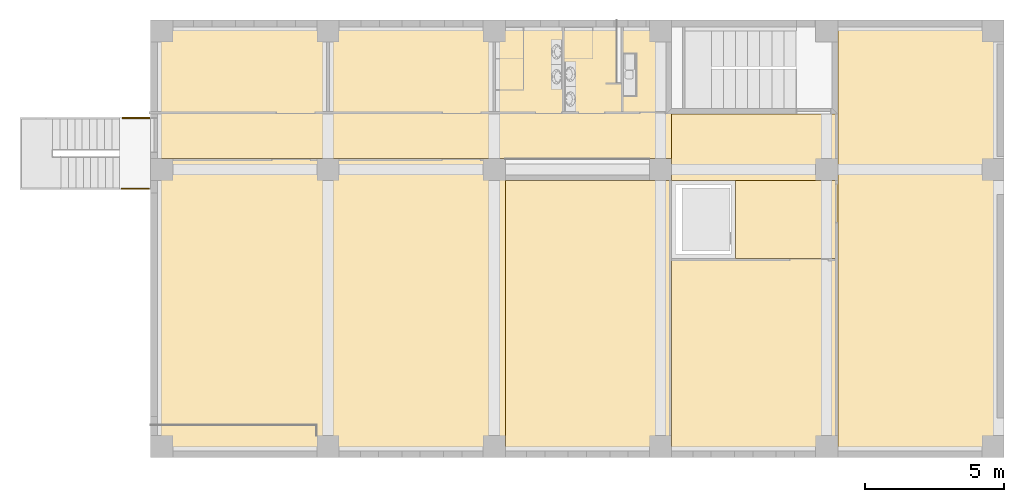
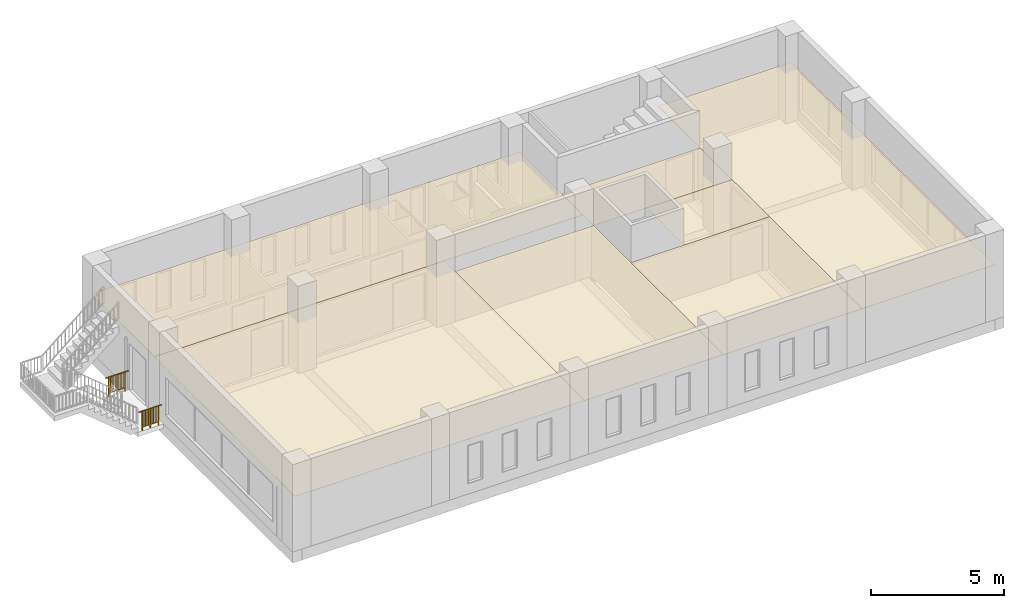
# One storey, part 7 of 14: 7 coverings, 2 railings.
"""IFC2X3 building model written with IfcOpenShell, lengths in millimetres."""

from ifc_helpers import new_model, entity, si_unit, converted_unit, direction, frame, origin_with_axes, place, context, project, spatial, polyline, outline, extrude, faceted_brep, source, transform, mapped, material, element, save


model = new_model("IFC2X3")

# Units and contexts
model_context = context("Model", 3, precision=1e-05, world=origin_with_axes(), true_north=direction((0.0, 1.0)))
ifc_project = project(units=[si_unit("LENGTHUNIT", "METRE", prefix="MILLI"), si_unit("AREAUNIT", "SQUARE_METRE"), si_unit("VOLUMEUNIT", "CUBIC_METRE"), converted_unit("PLANEANGLEUNIT", "DEGREE", entity("IfcPlaneAngleMeasure", 0.017453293), si_unit("PLANEANGLEUNIT", "RADIAN"), dimensions=[0, 0, 0, 0, 0, 0, 0]), si_unit("SOLIDANGLEUNIT", "STERADIAN"), si_unit("MASSUNIT", "GRAM"), si_unit("TIMEUNIT", "SECOND"), si_unit("THERMODYNAMICTEMPERATUREUNIT", "DEGREE_CELSIUS"), si_unit("LUMINOUSINTENSITYUNIT", "LUMEN")], contexts=[model_context])

# Site, building, storey
site_placement = place(None, origin_with_axes())
site = spatial("IfcSite", under=ifc_project, at=site_placement, Name="\x83T\x83C\x83g", CompositionType="ELEMENT")
building_placement = place(site_placement, origin_with_axes())
building = spatial("IfcBuilding", under=site, at=building_placement, Name="Daitec-Sample 201208", CompositionType="ELEMENT")
storey_placement = place(building_placement, frame((0.0, 0.0, 4000.0), z_axis=(0.0, 0.0, 1.0), x_axis=(1.0, 0.0, 0.0)))
storey = spatial("IfcBuildingStorey", under=building, at=storey_placement, Name="2F", CompositionType="ELEMENT", Elevation=4000.0)

# Railings
ifc_material_1 = material(Name="\x94w\x8ci")
shared_shape = source(origin_with_axes(), model_context, "Body", "Brep", [
    faceted_brep([(0.0, 25.0, 875.0), (0.0, -25.0, 875.0), (0.0, -25.0, 900.0), (0.0, 25.0, 900.0), (1000.0, 25.0, 875.0), (1000.0, -25.0, 875.0), (1000.0, -25.0, 900.0), (1000.0, 25.0, 900.0)], [[[0, 1, 2, 3]], [[0, 4, 5, 1]], [[1, 5, 6, 2]], [[3, 2, 6, 7]], [[4, 0, 3, 7]], [[5, 4, 7, 6]]]),
    faceted_brep([(132.5, -17.5, 0.0), (167.5, -17.5, 0.0), (167.5, -17.5, 875.0), (132.5, -17.5, 875.0), (132.5, 17.5, 0.0), (167.5, 17.5, 0.0), (167.5, 17.5, 875.0), (132.5, 17.5, 875.0)], [[[0, 1, 2, 3]], [[0, 4, 5, 1]], [[1, 5, 6, 2]], [[3, 2, 6, 7]], [[4, 0, 3, 7]], [[5, 4, 7, 6]]]),
    faceted_brep([(482.5, -17.5, 0.0), (517.5, -17.5, 0.0), (517.5, -17.5, 875.0), (482.5, -17.5, 875.0), (482.5, 17.5, 0.0), (517.5, 17.5, 0.0), (517.5, 17.5, 875.0), (482.5, 17.5, 875.0)], [[[0, 1, 2, 3]], [[0, 4, 5, 1]], [[1, 5, 6, 2]], [[3, 2, 6, 7]], [[4, 0, 3, 7]], [[5, 4, 7, 6]]]),
    faceted_brep([(832.5, -17.5, 0.0), (867.5, -17.5, 0.0), (867.5, -17.5, 875.0), (832.5, -17.5, 875.0), (832.5, 17.5, 0.0), (867.5, 17.5, 0.0), (867.5, 17.5, 875.0), (832.5, 17.5, 875.0)], [[[0, 1, 2, 3]], [[0, 4, 5, 1]], [[1, 5, 6, 2]], [[3, 2, 6, 7]], [[4, 0, 3, 7]], [[5, 4, 7, 6]]]),
    faceted_brep([(482.5, -10.0, 170.0), (482.5, 10.0, 170.0), (167.5, 10.0, 170.0), (167.5, -10.0, 170.0), (482.5, 10.0, 150.0), (482.5, -10.0, 150.0), (167.5, 10.0, 150.0), (167.5, -10.0, 150.0)], [[[0, 1, 2, 3]], [[4, 1, 0, 5]], [[1, 4, 6, 2]], [[7, 3, 2, 6]], [[5, 0, 3, 7]], [[4, 5, 7, 6]]]),
    faceted_brep([(832.5, -10.0, 170.0), (832.5, 10.0, 170.0), (517.5, 10.0, 170.0), (517.5, -10.0, 170.0), (832.5, 10.0, 150.0), (832.5, -10.0, 150.0), (517.5, 10.0, 150.0), (517.5, -10.0, 150.0)], [[[0, 1, 2, 3]], [[4, 1, 0, 5]], [[1, 4, 6, 2]], [[7, 3, 2, 6]], [[5, 0, 3, 7]], [[4, 5, 7, 6]]]),
    faceted_brep([(214.5, -10.0, 170.0), (234.5, -10.0, 170.0), (234.5, -10.0, 875.0), (214.5, -10.0, 875.0), (214.5, 10.0, 170.0), (234.5, 10.0, 170.0), (234.5, 10.0, 875.0), (214.5, 10.0, 875.0)], [[[0, 1, 2, 3]], [[0, 4, 5, 1]], [[1, 5, 6, 2]], [[3, 2, 6, 7]], [[4, 0, 3, 7]], [[5, 4, 7, 6]]]),
    faceted_brep([(281.5, -10.0, 170.0), (301.5, -10.0, 170.0), (301.5, -10.0, 875.0), (281.5, -10.0, 875.0), (281.5, 10.0, 170.0), (301.5, 10.0, 170.0), (301.5, 10.0, 875.0), (281.5, 10.0, 875.0)], [[[0, 1, 2, 3]], [[0, 4, 5, 1]], [[1, 5, 6, 2]], [[3, 2, 6, 7]], [[4, 0, 3, 7]], [[5, 4, 7, 6]]]),
    faceted_brep([(348.5, -10.0, 170.0), (368.5, -10.0, 170.0), (368.5, -10.0, 875.0), (348.5, -10.0, 875.0), (348.5, 10.0, 170.0), (368.5, 10.0, 170.0), (368.5, 10.0, 875.0), (348.5, 10.0, 875.0)], [[[0, 1, 2, 3]], [[0, 4, 5, 1]], [[1, 5, 6, 2]], [[3, 2, 6, 7]], [[4, 0, 3, 7]], [[5, 4, 7, 6]]]),
    faceted_brep([(415.5, -10.0, 170.0), (435.5, -10.0, 170.0), (435.5, -10.0, 875.0), (415.5, -10.0, 875.0), (415.5, 10.0, 170.0), (435.5, 10.0, 170.0), (435.5, 10.0, 875.0), (415.5, 10.0, 875.0)], [[[0, 1, 2, 3]], [[0, 4, 5, 1]], [[1, 5, 6, 2]], [[3, 2, 6, 7]], [[4, 0, 3, 7]], [[5, 4, 7, 6]]]),
    faceted_brep([(564.5, -10.0, 170.0), (584.5, -10.0, 170.0), (584.5, -10.0, 875.0), (564.5, -10.0, 875.0), (564.5, 10.0, 170.0), (584.5, 10.0, 170.0), (584.5, 10.0, 875.0), (564.5, 10.0, 875.0)], [[[0, 1, 2, 3]], [[0, 4, 5, 1]], [[1, 5, 6, 2]], [[3, 2, 6, 7]], [[4, 0, 3, 7]], [[5, 4, 7, 6]]]),
    faceted_brep([(631.5, -10.0, 170.0), (651.5, -10.0, 170.0), (651.5, -10.0, 875.0), (631.5, -10.0, 875.0), (631.5, 10.0, 170.0), (651.5, 10.0, 170.0), (651.5, 10.0, 875.0), (631.5, 10.0, 875.0)], [[[0, 1, 2, 3]], [[0, 4, 5, 1]], [[1, 5, 6, 2]], [[3, 2, 6, 7]], [[4, 0, 3, 7]], [[5, 4, 7, 6]]]),
    faceted_brep([(698.5, -10.0, 170.0), (718.5, -10.0, 170.0), (718.5, -10.0, 875.0), (698.5, -10.0, 875.0), (698.5, 10.0, 170.0), (718.5, 10.0, 170.0), (718.5, 10.0, 875.0), (698.5, 10.0, 875.0)], [[[0, 1, 2, 3]], [[0, 4, 5, 1]], [[1, 5, 6, 2]], [[3, 2, 6, 7]], [[4, 0, 3, 7]], [[5, 4, 7, 6]]]),
    faceted_brep([(765.5, -10.0, 170.0), (785.5, -10.0, 170.0), (785.5, -10.0, 875.0), (765.5, -10.0, 875.0), (765.5, 10.0, 170.0), (785.5, 10.0, 170.0), (785.5, 10.0, 875.0), (765.5, 10.0, 875.0)], [[[0, 1, 2, 3]], [[0, 4, 5, 1]], [[1, 5, 6, 2]], [[3, 2, 6, 7]], [[4, 0, 3, 7]], [[5, 4, 7, 6]]]),
])
for number, where, z_axis, x_axis, name in (
    (1, (6066.1794, 20261.356, 0.0), (0.0, 0.0, 1.0), (-1.0, 0.0, 0.0), "O9"),
    (2, (6040.7362, 17709.787, 0.0), (0.0, 0.0, 1.0), (-1.0, 0.0, 0.0), "O8"),
):
    element("IfcRailing", number, at=place(storey_placement, frame(where, z_axis=z_axis, x_axis=x_axis)), inside=storey, material=ifc_material_1, Name=name, PredefinedType="NOTDEFINED", context=model_context, shape_type="MappedRepresentation", body=[
        mapped(shared_shape, transform((0.0, 0.0, 0.0))),
    ])

# Coverings
ifc_material_2 = material(Name="\x93V\x88ä1")
covering_1_placement = place(storey_placement, frame((30900.0, 23550.0, 2300.0), z_axis=(0.0, 0.0, 1.0), x_axis=(1.0, 0.0, 0.0)))
element("IfcCovering", 3, at=covering_1_placement, inside=storey, material=ifc_material_2, Name="S5", PredefinedType="CEILING", context=model_context, shape_type="SweptSolid", body=[
    extrude(outline(polyline([(0.0, 0.0), (0.0, -15300.0), (5750.0, -15300.0), (5750.0, 0.0), (0.0, 0.0)])), origin_with_axes(), (0.0, 0.0, 1.0), 10.0),
])
covering_2_placement = place(storey_placement, frame((30900.0, 18000.0, 2300.0), z_axis=(0.0, 0.0, 1.0), x_axis=(1.0, 0.0, 0.0)))
element("IfcCovering", 4, at=covering_2_placement, inside=storey, material=ifc_material_2, Name="S4", PredefinedType="CEILING", context=model_context, shape_type="SweptSolid", body=[
    extrude(outline(polyline([(0.0, 0.0), (-3700.0, 0.0), (-3700.0, -2800.0), (0.0, -2800.0), (0.0, 0.0)])), origin_with_axes(), (0.0, 0.0, 1.0), 10.0),
])
covering_3_placement = place(storey_placement, frame((24900.0, 18000.0, 2300.0), z_axis=(0.0, 0.0, 1.0), x_axis=(1.0, 0.0, 0.0)))
element("IfcCovering", 5, at=covering_3_placement, inside=storey, material=ifc_material_2, Name="S3", PredefinedType="CEILING", context=model_context, shape_type="SweptSolid", body=[
    extrude(outline(polyline([(0.0, 0.0), (6000.0, 0.0), (6000.0, 2399.9089), (0.0, 2399.9089), (0.0, 0.0)])), origin_with_axes(), (0.0, 0.0, 1.0), 10.0),
])
covering_4_placement = place(storey_placement, frame((24900.0, 8250.0, 2300.0), z_axis=(0.0, 0.0, 1.0), x_axis=(1.0, 0.0, 0.0)))
element("IfcCovering", 6, at=covering_4_placement, inside=storey, material=ifc_material_2, Name="S2", PredefinedType="CEILING", context=model_context, shape_type="SweptSolid", body=[
    extrude(outline(polyline([(0.0, 0.0), (6000.0, 0.0), (6000.0, 6950.0), (0.0, 6950.0), (0.0, 0.0)])), origin_with_axes(), (0.0, 0.0, 1.0), 10.0),
])
covering_5_placement = place(storey_placement, frame((18900.0, 8250.0, 2300.0), z_axis=(0.0, 0.0, 1.0), x_axis=(1.0, 0.0, 0.0)))
element("IfcCovering", 7, at=covering_5_placement, inside=storey, material=ifc_material_2, Name="S1", PredefinedType="CEILING", context=model_context, shape_type="SweptSolid", body=[
    extrude(outline(polyline([(0.0, 0.0), (6000.0, 0.0), (6000.0, 9750.0), (0.0, 9750.0), (0.0, 0.0)])), origin_with_axes(), (0.0, 0.0, 1.0), 10.0),
])
covering_6_placement = place(storey_placement, frame((6350.0, 23550.0, 2300.0), z_axis=(0.0, 0.0, 1.0), x_axis=(1.0, 0.0, 0.0)))
element("IfcCovering", 8, at=covering_6_placement, inside=storey, material=ifc_material_2, Name="S9", PredefinedType="CEILING", context=model_context, shape_type="SweptSolid", body=[
    extrude(outline(polyline([(0.0, 0.0), (0.0, -4750.0), (18550.0, -4750.0), (18550.0, 0.0), (0.0, 0.0)])), origin_with_axes(), (0.0, 0.0, 1.0), 10.0),
])
covering_7_placement = place(storey_placement, frame((6350.0, 18800.0, 2300.0), z_axis=(0.0, 0.0, 1.0), x_axis=(1.0, 0.0, 0.0)))
element("IfcCovering", 9, at=covering_7_placement, inside=storey, material=ifc_material_2, Name="S0", PredefinedType="CEILING", context=model_context, shape_type="SweptSolid", body=[
    extrude(outline(polyline([(0.0, 0.0), (0.0, -10550.0), (12550.0, -10550.0), (12550.0, 0.0), (0.0, 0.0)])), origin_with_axes(), (0.0, 0.0, 1.0), 10.0),
])

save(model, "model.ifc")
